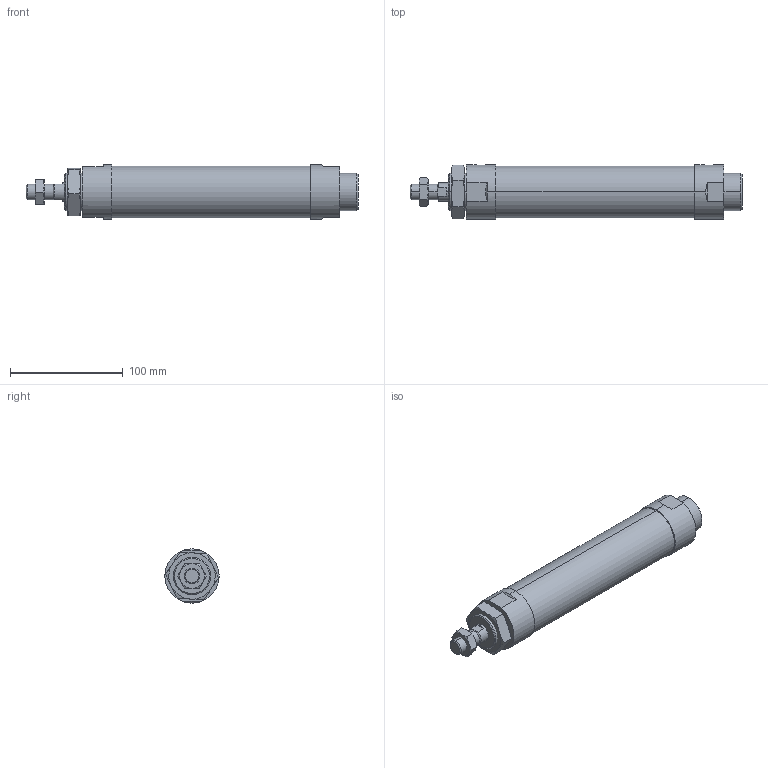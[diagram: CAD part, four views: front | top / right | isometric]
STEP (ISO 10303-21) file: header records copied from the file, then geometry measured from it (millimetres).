
FILE_DESCRIPTION (( 'STEP AP203' ), '1' );
FILE_NAME ('J#2-40-125-N.STEP', '2016-03-08T08:00:37', ( '' ), ( '' ), 'SwSTEP 2.0', 'SolidWorks 2014', '' );
FILE_SCHEMA (( 'CONFIG_CONTROL_DESIGN' ));
Length unit declared in the file: millimetre
Products named in the file (4): J#2-40-125; J#2-40-125-N
Assembly tree (3 placements, depth 2):
  J#2-40-125-N
    J#2-40-125
    (unnamed)
    (unnamed)
Bounding box: 294 x 48 x 48 mm (x, y, z)
Volume: 425557 mm3; surface area: 48500.3 mm2
Topology: 3 solids, 3 shells, 94 faces, 210 edges, 125 vertices
Faces by surface type: plane 33, torus 24, cylinder 22, cone 15
Entity records: 3435 total; most frequent: CARTESIAN_POINT 1022, DIRECTION 421, ORIENTED_EDGE 412, EDGE_CURVE 206, AXIS2_PLACEMENT_3D 178, VERTEX_POINT 125, EDGE_LOOP 105, FACE_OUTER_BOUND 94
